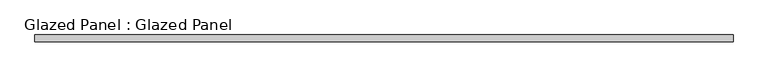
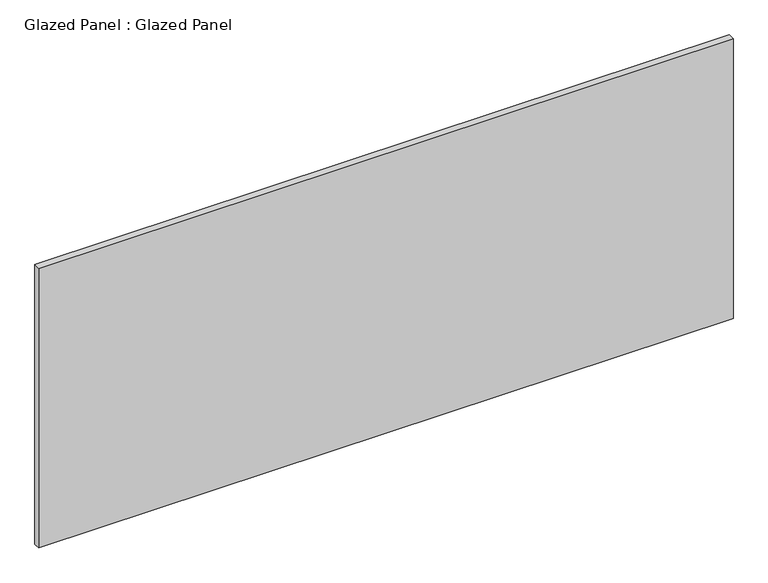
"""IFC4 building model written with IfcOpenShell, lengths in millimetres: plate geometry, Glazed Panel : Glazed Panel."""

from ifc_helpers import new_model, si_unit, origin, origin_with_axes, place, context, project, spatial, polyline, outline, extrude, source, transform, mapped, element, save


def glazed_panel_glazed_panel_b2e43c1a(model_context):
    return source(origin(), model_context, "Body", "SweptSolid", [
        extrude(outline(polyline([(1318.9865007, 38.1), (-1318.9865007, 38.1), (-1318.9865007, 63.5), (1318.9865007, 63.5), (1318.9865007, 38.1)])), origin_with_axes(), (0.0, 0.0, 1.0), 1123.95),
    ])


if __name__ == "__main__":
    model = new_model("IFC4")
    model_context = context("Model", 3, world=origin())
    ifc_project = project(units=[si_unit("LENGTHUNIT", "METRE", prefix="MILLI")], contexts=[model_context])
    site = spatial("IfcSite", under=ifc_project)
    building = spatial("IfcBuilding", under=site)
    placement = place(None, origin())
    glazed_panel_glazed_panel_shape = glazed_panel_glazed_panel_b2e43c1a(model_context)
    element("IfcPlate", 1, ObjectType="Glazed Panel : Glazed Panel", at=placement, inside=building, context=model_context, shape_type="MappedRepresentation", body=[
        mapped(glazed_panel_glazed_panel_shape, transform((0.0, 0.0, 0.0), x_axis=(1.0, 0.0, 0.0), y_axis=(0.0, 1.0, 0.0), z_axis=(0.0, 0.0, 1.0))),
    ])
    save(model, "model.ifc")
